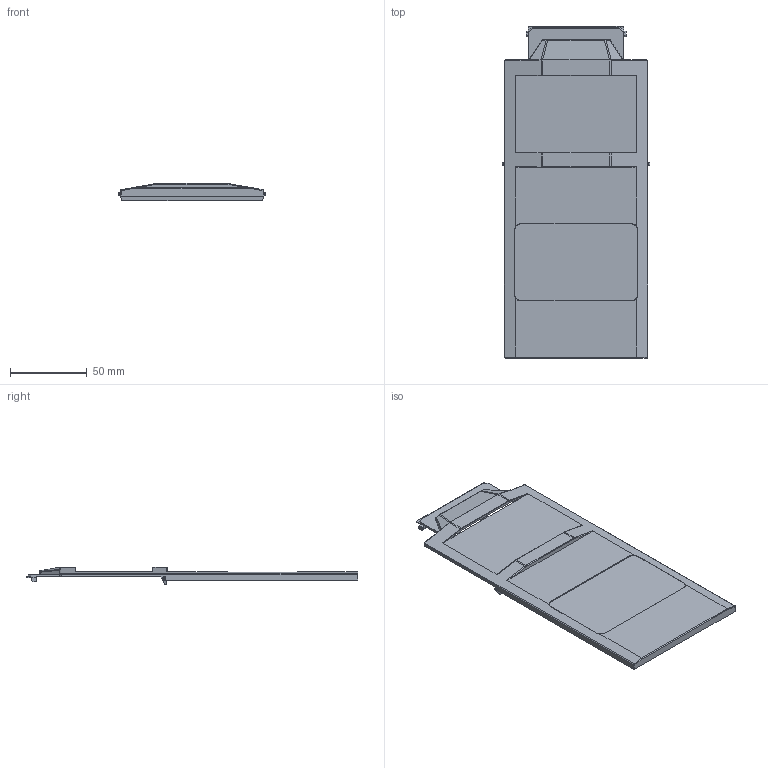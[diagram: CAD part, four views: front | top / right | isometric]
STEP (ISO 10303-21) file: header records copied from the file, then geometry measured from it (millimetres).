
FILE_DESCRIPTION((''),'2;1');
FILE_NAME('8TZD_315_6305','2025-02-21T16:51:03',('liuhui'),(''),'CREO PARAMETRIC BY PTC INC, 2020354','CREO PARAMETRIC BY PTC INC, 2020354','');
FILE_SCHEMA(('CONFIG_CONTROL_DESIGN'));
Length unit declared in the file: millimetre
Products named in the file (1): 8TZD_315_6305
Bounding box: 96.1 x 216.53 x 11.34 mm (x, y, z)
Volume: 38410.4 mm3; surface area: 46070.3 mm2
Topology: 1 solids, 1 shells, 336 faces, 826 edges, 484 vertices
Faces by surface type: cylinder 146, plane 113, sphere 34, bspline 33, torus 10
Entity records: 11435 total; most frequent: CARTESIAN_POINT 3707, ORIENTED_EDGE 1646, DIRECTION 1569, EDGE_CURVE 823, AXIS2_PLACEMENT_3D 551, VERTEX_POINT 484, VECTOR 467, LINE 467
